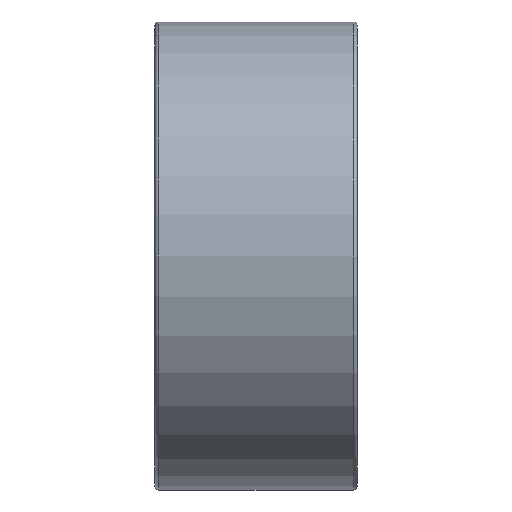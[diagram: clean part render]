
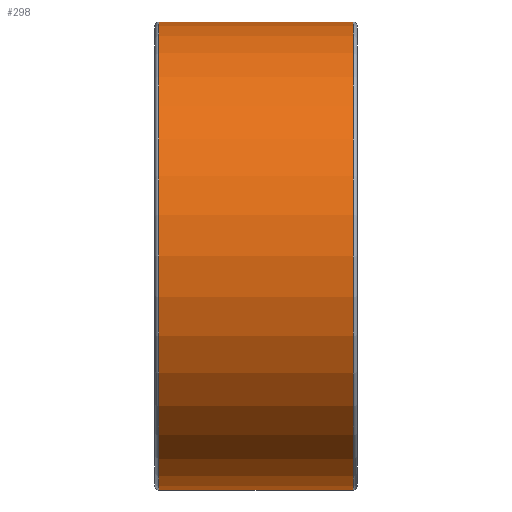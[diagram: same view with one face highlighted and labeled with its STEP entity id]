
A CAD part, front view. The second image highlights one B-rep face of the part: STEP entity #298.
In plain terms, the highlighted cylindrical face has radius 18.5 mm (diameter 37 mm), a full revolution.
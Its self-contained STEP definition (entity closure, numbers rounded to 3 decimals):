
#118=CYLINDRICAL_SURFACE('',#328,18.5);
#128=FACE_BOUND('',#171,.T.);
#145=FACE_OUTER_BOUND('',#170,.T.);
#170=EDGE_LOOP('',(#260));
#171=EDGE_LOOP('',(#261));
#200=CIRCLE('',#327,18.5);
#201=CIRCLE('',#329,18.5);
#218=VERTEX_POINT('',#522);
#219=VERTEX_POINT('',#525);
#236=EDGE_CURVE('',#218,#218,#200,.T.);
#237=EDGE_CURVE('',#219,#219,#201,.T.);
#260=ORIENTED_EDGE('',*,*,#237,.F.);
#261=ORIENTED_EDGE('',*,*,#236,.F.);
#298=ADVANCED_FACE('',(#145,#128),#118,.T.);
#327=AXIS2_PLACEMENT_3D('',#523,#403,#404);
#328=AXIS2_PLACEMENT_3D('',#524,#405,#406);
#329=AXIS2_PLACEMENT_3D('',#526,#407,#408);
#403=DIRECTION('center_axis',(-1.,0.,0.));
#404=DIRECTION('ref_axis',(0.,-1.,0.));
#405=DIRECTION('center_axis',(1.,0.,0.));
#406=DIRECTION('ref_axis',(0.,1.,0.));
#407=DIRECTION('center_axis',(1.,0.,0.));
#408=DIRECTION('ref_axis',(0.,-1.,0.));
#522=CARTESIAN_POINT('',(-7.7,18.5,0.));
#523=CARTESIAN_POINT('Origin',(-7.7,0.,0.));
#524=CARTESIAN_POINT('Origin',(0.,0.,
0.));
#525=CARTESIAN_POINT('',(7.7,18.5,0.));
#526=CARTESIAN_POINT('Origin',(7.7,0.,0.));
